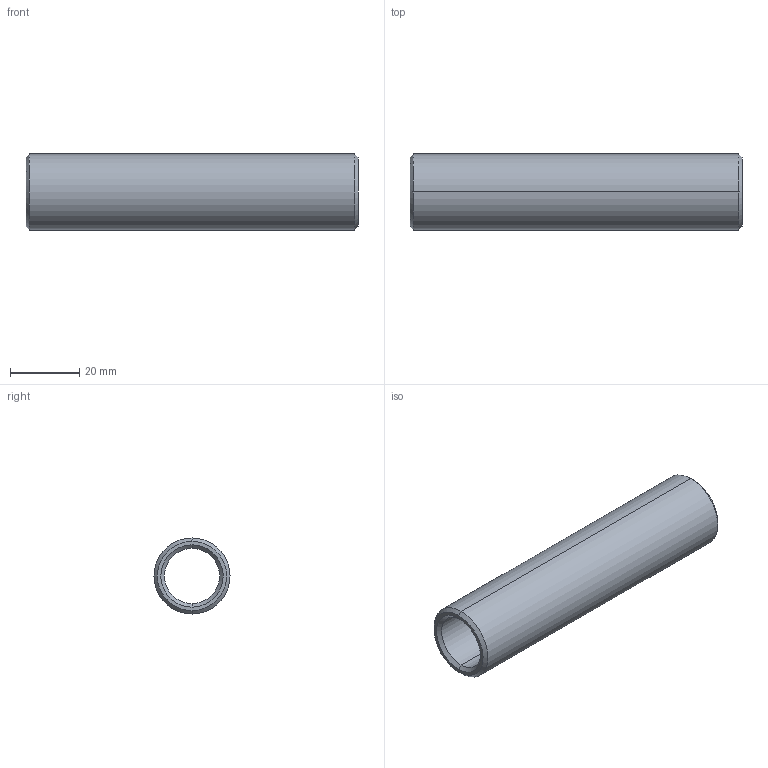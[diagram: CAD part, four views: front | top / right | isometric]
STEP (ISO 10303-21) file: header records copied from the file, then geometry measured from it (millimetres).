
FILE_DESCRIPTION(('CATIA V5 STEP Exchange'),'2;1');
FILE_NAME('C:\Users\Utente\Desktop\IO LAVORO\3D X SITO CF\X SITO\PLASTICA\352\352-16X96.stp','2021-04-10T09:28:42+00:00',('none'),('none'),'CATIA Version 5 Release 20 GA (IN-10)','CATIA V5 STEP AP203','none');
FILE_SCHEMA(('CONFIG_CONTROL_DESIGN'));
Length unit declared in the file: millimetre
Products named in the file (1): 352-16X96
Bounding box: 96 x 22 x 22 mm (x, y, z)
Volume: 17086.5 mm3; surface area: 11685.8 mm2
Topology: 1 solids, 1 shells, 14 faces, 44 edges, 32 vertices
Faces by surface type: cone 6, cylinder 4, plane 2, torus 2
Entity records: 634 total; most frequent: CARTESIAN_POINT 203, ORIENTED_EDGE 88, DIRECTION 64, EDGE_CURVE 44, AXIS2_PLACEMENT_3D 41, VERTEX_POINT 32, CIRCLE 26, EDGE_LOOP 16
